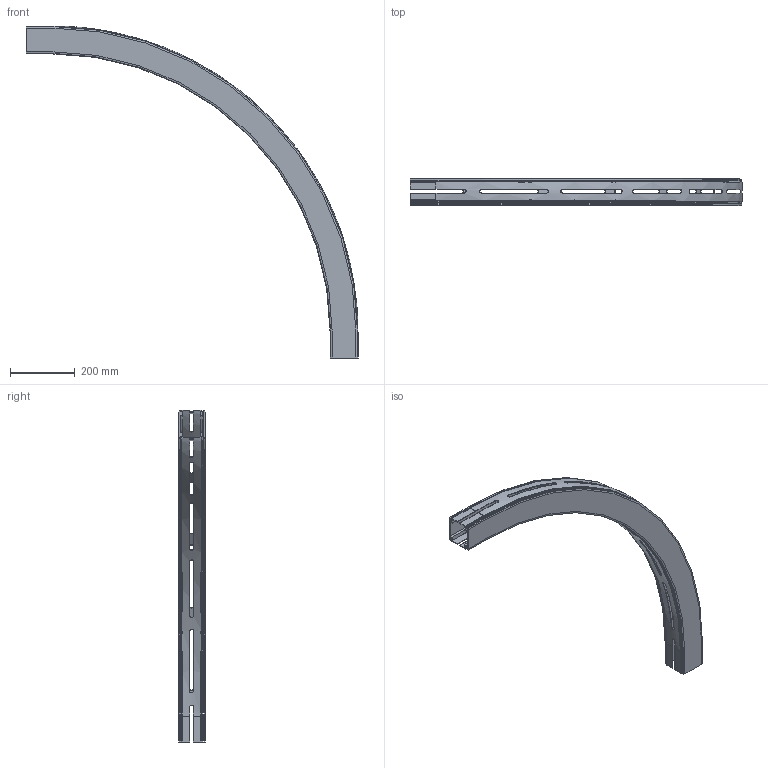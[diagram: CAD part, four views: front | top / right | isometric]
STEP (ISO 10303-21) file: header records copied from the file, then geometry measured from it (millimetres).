
FILE_DESCRIPTION(/* description */ ('GLIDKURVA SERIE 530'),/* implementation_level */ '2;1');
FILE_NAME(/* name */ '530-5375+830-2000-01.stp',/* time_stamp */ '2022-09-20T15:54:56+02:00',/* author */ ('Mathias.Dore'),/* organization */ ('CARRYLINE'),/* preprocessor_version */ 'ST-DEVELOPER v19.2',/* originating_system */ 'Autodesk Inventor 2023',/* authorisation */ '');
FILE_SCHEMA (('AUTOMOTIVE_DESIGN { 1 0 10303 214 3 1 1 }'));
Length unit declared in the file: millimetre
Products named in the file (1): 530-5375+830-2000-01
Bounding box: 1023 x 82 x 1023 mm (x, y, z)
Volume: 2278222.7 mm3; surface area: 1087243.8 mm2
Topology: 2 solids, 2 shells, 207 faces, 578 edges, 380 vertices
Faces by surface type: plane 133, bspline 38, cylinder 28, torus 4, cone 4
Entity records: 8009 total; most frequent: CARTESIAN_POINT 2696, ORIENTED_EDGE 1156, DIRECTION 962, EDGE_CURVE 578, LINE 382, VECTOR 382, VERTEX_POINT 380, AXIS2_PLACEMENT_3D 290
